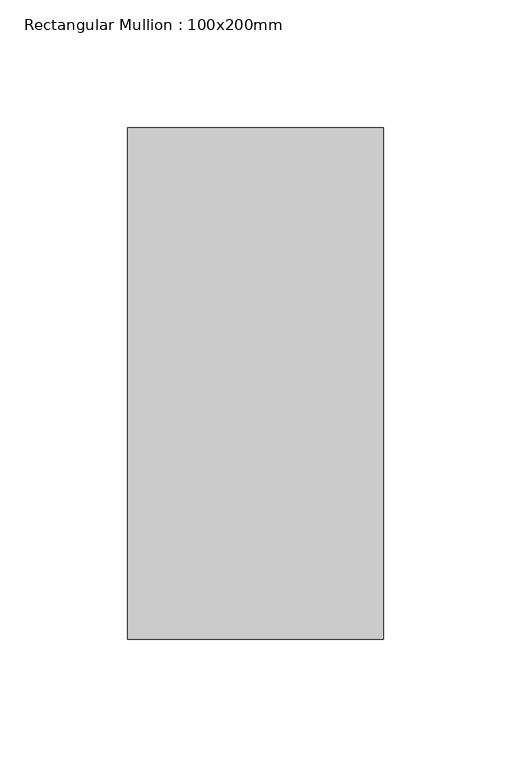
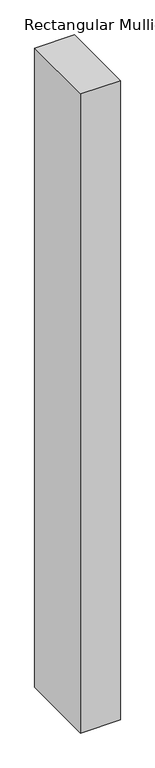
"""IFC4 building model written with IfcOpenShell, lengths in millimetres: member geometry, Rectangular Mullion : 100x200mm."""

from ifc_helpers import new_model, si_unit, frame, origin, place, context, project, spatial, polyline, outline, extrude, source, transform, mapped, element, save


def rectangular_mullion_100x200mm_818375e4(model_context):
    return source(origin(), model_context, "Body", "SweptSolid", [
        extrude(outline(polyline([(0.0, 100.0), (0.0, -100.0), (-100.0, -100.0), (-100.0, 100.0), (0.0, 100.0)])), frame((0.0, 0.0, -1700.0), z_axis=(0.0, 0.0, 1.0), x_axis=(1.0, 0.0, 0.0)), (0.0, 0.0, 1.0), 1700.0),
    ])


if __name__ == "__main__":
    model = new_model("IFC4")
    model_context = context("Model", 3, world=origin())
    ifc_project = project(units=[si_unit("LENGTHUNIT", "METRE", prefix="MILLI")], contexts=[model_context])
    site = spatial("IfcSite", under=ifc_project)
    building = spatial("IfcBuilding", under=site)
    placement = place(None, origin())
    rectangular_mullion_100x200mm_shape = rectangular_mullion_100x200mm_818375e4(model_context)
    element("IfcMember", 1, ObjectType="Rectangular Mullion : 100x200mm", at=placement, inside=building, context=model_context, shape_type="MappedRepresentation", body=[
        mapped(rectangular_mullion_100x200mm_shape, transform((0.0, 0.0, 0.0), x_axis=(1.0, 0.0, 0.0), y_axis=(0.0, 1.0, 0.0), z_axis=(0.0, 0.0, 1.0))),
    ])
    save(model, "model.ifc")
